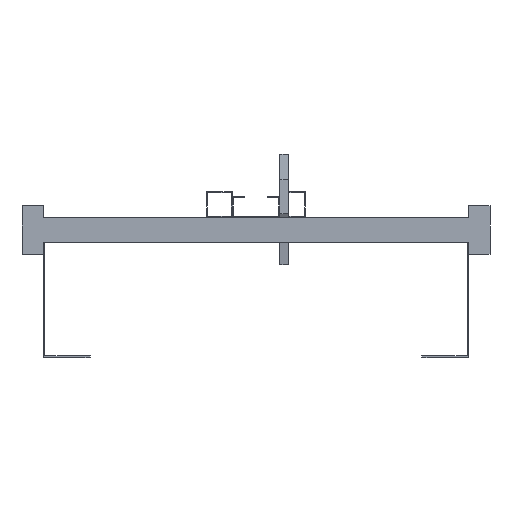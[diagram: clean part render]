
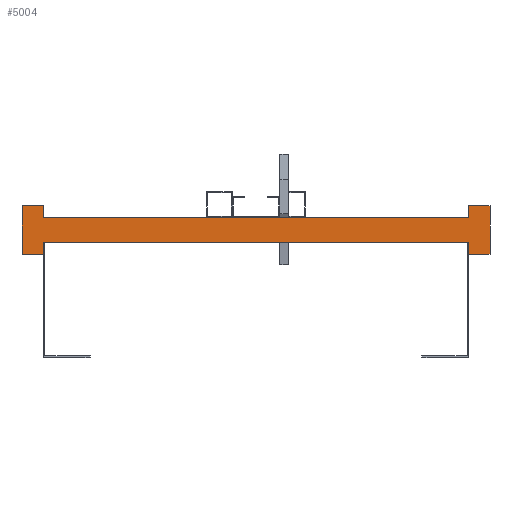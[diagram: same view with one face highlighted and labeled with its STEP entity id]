
A CAD part, front view. The second image highlights one B-rep face of the part: STEP entity #5004.
In plain terms, the highlighted planar face has unit normal (0, -1, 0).
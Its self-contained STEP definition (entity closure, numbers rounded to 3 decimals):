
#1797=DIRECTION('',(0.,0.,1.));
#1798=VECTOR('',#1797,13.5);
#1799=CARTESIAN_POINT('',(250.,0.,-28.5));
#1800=LINE('',#1799,#1798);
#1801=DIRECTION('',(0.,0.,-1.));
#1802=VECTOR('',#1801,13.5);
#1803=CARTESIAN_POINT('',(-250.,0.,-15.));
#1804=LINE('',#1803,#1802);
#1805=DIRECTION('',(-1.,0.,0.));
#1806=VECTOR('',#1805,25.);
#1807=CARTESIAN_POINT('',(-250.,0.,-28.5));
#1808=LINE('',#1807,#1806);
#1809=DIRECTION('',(0.,0.,1.));
#1810=VECTOR('',#1809,57.);
#1811=CARTESIAN_POINT('',(-275.,0.,-28.5));
#1812=LINE('',#1811,#1810);
#1813=DIRECTION('',(1.,0.,0.));
#1814=VECTOR('',#1813,25.);
#1815=CARTESIAN_POINT('',(-275.,0.,28.5));
#1816=LINE('',#1815,#1814);
#1817=DIRECTION('',(0.,0.,-1.));
#1818=VECTOR('',#1817,13.5);
#1819=CARTESIAN_POINT('',(-250.,0.,28.5));
#1820=LINE('',#1819,#1818);
#1821=DIRECTION('',(0.,0.,1.));
#1822=VECTOR('',#1821,13.5);
#1823=CARTESIAN_POINT('',(250.,0.,15.));
#1824=LINE('',#1823,#1822);
#1825=DIRECTION('',(1.,0.,0.));
#1826=VECTOR('',#1825,25.);
#1827=CARTESIAN_POINT('',(250.,0.,28.5));
#1828=LINE('',#1827,#1826);
#1829=DIRECTION('',(0.,0.,-1.));
#1830=VECTOR('',#1829,57.);
#1831=CARTESIAN_POINT('',(275.,0.,28.5));
#1832=LINE('',#1831,#1830);
#1833=DIRECTION('',(-1.,0.,0.));
#1834=VECTOR('',#1833,25.);
#1835=CARTESIAN_POINT('',(275.,0.,-28.5));
#1836=LINE('',#1835,#1834);
#1837=DIRECTION('',(1.,0.,0.));
#1838=VECTOR('',#1837,500.);
#1839=CARTESIAN_POINT('',(-250.,0.,-15.));
#1840=LINE('',#1839,#1838);
#1849=DIRECTION('',(1.,0.,0.));
#1850=VECTOR('',#1849,500.);
#1851=CARTESIAN_POINT('',(-250.,0.,15.));
#1852=LINE('',#1851,#1850);
#1905=CARTESIAN_POINT('',(-275.,0.,28.5));
#1906=CARTESIAN_POINT('',(-250.,0.,28.5));
#1907=VERTEX_POINT('',#1905);
#1908=VERTEX_POINT('',#1906);
#1909=CARTESIAN_POINT('',(-250.,0.,-28.5));
#1910=CARTESIAN_POINT('',(-275.,0.,-28.5));
#1911=VERTEX_POINT('',#1909);
#1912=VERTEX_POINT('',#1910);
#1913=CARTESIAN_POINT('',(275.,0.,28.5));
#1914=CARTESIAN_POINT('',(275.,0.,-28.5));
#1915=VERTEX_POINT('',#1913);
#1916=VERTEX_POINT('',#1914);
#1917=CARTESIAN_POINT('',(250.,0.,-28.5));
#1918=VERTEX_POINT('',#1917);
#1919=CARTESIAN_POINT('',(250.,0.,28.5));
#1920=VERTEX_POINT('',#1919);
#1937=CARTESIAN_POINT('',(-250.,0.,-15.));
#1939=VERTEX_POINT('',#1937);
#1941=CARTESIAN_POINT('',(-250.,0.,15.));
#1943=VERTEX_POINT('',#1941);
#1945=CARTESIAN_POINT('',(250.,0.,-15.));
#1947=VERTEX_POINT('',#1945);
#1949=CARTESIAN_POINT('',(250.,0.,15.));
#1951=VERTEX_POINT('',#1949);
#4979=CARTESIAN_POINT('',(0.,0.,0.));
#4980=DIRECTION('',(0.,1.,0.));
#4981=DIRECTION('',(1.,0.,0.));
#4982=AXIS2_PLACEMENT_3D('',#4979,#4980,#4981);
#4983=PLANE('',#4982);
#4984=ORIENTED_EDGE('',*,*,#2839,.T.);
#4986=ORIENTED_EDGE('',*,*,#4985,.F.);
#4987=ORIENTED_EDGE('',*,*,#2541,.T.);
#4988=ORIENTED_EDGE('',*,*,#3943,.T.);
#4990=ORIENTED_EDGE('',*,*,#4989,.T.);
#4992=ORIENTED_EDGE('',*,*,#4991,.T.);
#4993=ORIENTED_EDGE('',*,*,#2549,.T.);
#4995=ORIENTED_EDGE('',*,*,#4994,.T.);
#4996=ORIENTED_EDGE('',*,*,#2831,.T.);
#4998=ORIENTED_EDGE('',*,*,#4997,.T.);
#5000=ORIENTED_EDGE('',*,*,#4999,.T.);
#5001=ORIENTED_EDGE('',*,*,#4260,.T.);
#5002=EDGE_LOOP('',(#4984,#4986,#4987,#4988,#4990,#4992,#4993,#4995,#4996,#4998,
#5000,#5001));
#5003=FACE_OUTER_BOUND('',#5002,.F.);
#2541=EDGE_CURVE('',#1939,#1911,#1804,.T.);
#2549=EDGE_CURVE('',#1908,#1943,#1820,.T.);
#2831=EDGE_CURVE('',#1951,#1920,#1824,.T.);
#2839=EDGE_CURVE('',#1918,#1947,#1800,.T.);
#3943=EDGE_CURVE('',#1911,#1912,#1808,.T.);
#4260=EDGE_CURVE('',#1916,#1918,#1836,.T.);
#4985=EDGE_CURVE('',#1939,#1947,#1840,.T.);
#4989=EDGE_CURVE('',#1912,#1907,#1812,.T.);
#4991=EDGE_CURVE('',#1907,#1908,#1816,.T.);
#4994=EDGE_CURVE('',#1943,#1951,#1852,.T.);
#4997=EDGE_CURVE('',#1920,#1915,#1828,.T.);
#4999=EDGE_CURVE('',#1915,#1916,#1832,.T.);
#5004=ADVANCED_FACE('',(#5003),#4983,.F.);
